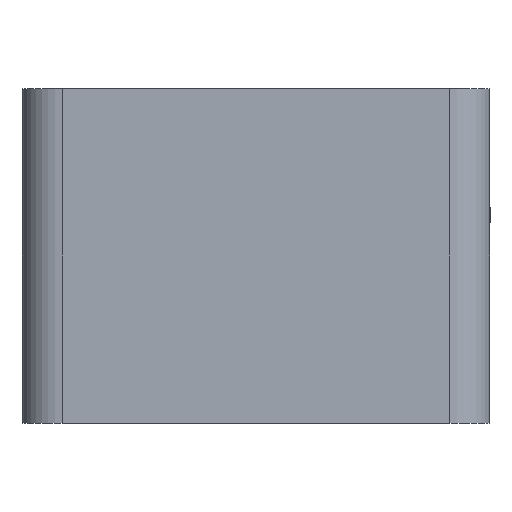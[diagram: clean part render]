
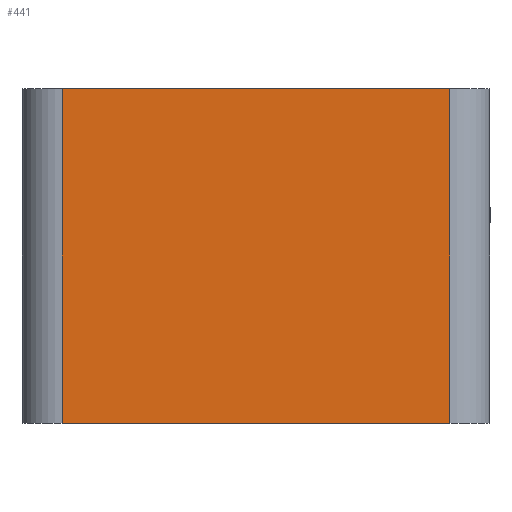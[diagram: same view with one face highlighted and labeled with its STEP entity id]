
A CAD part, front view. The second image highlights one B-rep face of the part: STEP entity #441.
In plain terms, the highlighted planar face has unit normal (0, -1, 0).
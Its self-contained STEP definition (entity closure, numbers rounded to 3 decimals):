
#441=ADVANCED_FACE('',(#724),#606,.T.);
#606=PLANE('',#2911);
#724=FACE_OUTER_BOUND('',#882,.T.);
#882=EDGE_LOOP('',(#1192,#1193,#1194,#1195));
#1192=ORIENTED_EDGE('',*,*,#2289,.T.);
#1193=ORIENTED_EDGE('',*,*,#2290,.T.);
#1194=ORIENTED_EDGE('',*,*,#2287,.T.);
#1195=ORIENTED_EDGE('',*,*,#2291,.T.);
#2006=VERTEX_POINT('',#4234);
#2007=VERTEX_POINT('',#4236);
#2008=VERTEX_POINT('',#4240);
#2009=VERTEX_POINT('',#4241);
#2287=EDGE_CURVE('',#2007,#2006,#2591,.T.);
#2289=EDGE_CURVE('',#2008,#2009,#2592,.T.);
#2290=EDGE_CURVE('',#2009,#2007,#2593,.T.);
#2291=EDGE_CURVE('',#2006,#2008,#2594,.T.);
#2591=LINE('',#4235,#2740);
#2592=LINE('',#4239,#2741);
#2593=LINE('',#4242,#2742);
#2594=LINE('',#4243,#2743);
#2740=VECTOR('',#3113,1.);
#2741=VECTOR('',#3118,1.);
#2742=VECTOR('',#3119,1.);
#2743=VECTOR('',#3120,1.);
#2911=AXIS2_PLACEMENT_3D('',#4244,#3121,#3122);
#3113=DIRECTION('',(-1.,0.,0.));
#3118=DIRECTION('',(1.,0.,0.));
#3119=DIRECTION('',(0.,0.,1.));
#3120=DIRECTION('',(0.,0.,-1.));
#3121=DIRECTION('',(0.,-1.,0.));
#3122=DIRECTION('',(0.,0.,-1.));
#4234=CARTESIAN_POINT('',(3.,0.,25.));
#4235=CARTESIAN_POINT('',(17.5,0.,25.));
#4236=CARTESIAN_POINT('',(32.,0.,25.));
#4239=CARTESIAN_POINT('',(17.5,0.,0.));
#4240=CARTESIAN_POINT('',(3.,0.,0.));
#4241=CARTESIAN_POINT('',(32.,0.,0.));
#4242=CARTESIAN_POINT('',(32.,0.,0.));
#4243=CARTESIAN_POINT('',(3.,0.,0.));
#4244=CARTESIAN_POINT('',(17.5,0.,0.));
